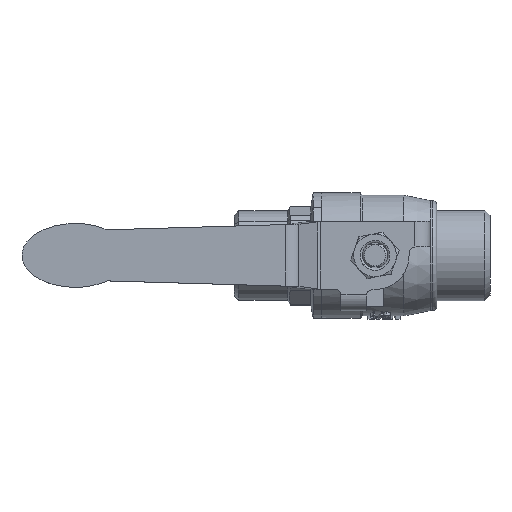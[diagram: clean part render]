
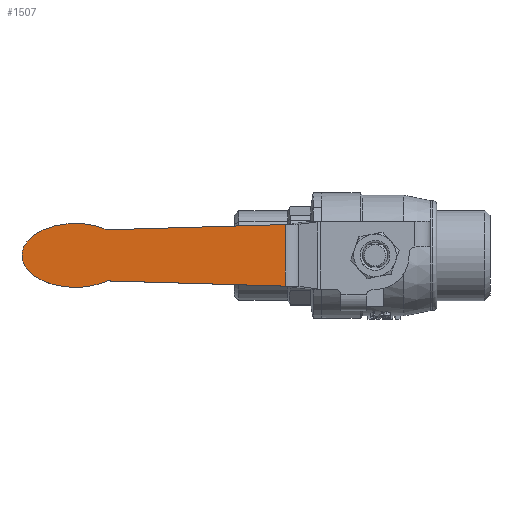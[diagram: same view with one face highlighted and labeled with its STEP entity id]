
A CAD part, top view. The second image highlights one B-rep face of the part: STEP entity #1507.
In plain terms, the highlighted planar face has unit normal (0, 0, 1).
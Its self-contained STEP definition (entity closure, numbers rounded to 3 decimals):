
#154=(
BOUNDED_CURVE()
B_SPLINE_CURVE(3,(#20876,#20877,#20878,#20879),.UNSPECIFIED.,.F.,.F.)
B_SPLINE_CURVE_WITH_KNOTS((4,4),(0.,1.),.UNSPECIFIED.)
CURVE()
GEOMETRIC_REPRESENTATION_ITEM()
RATIONAL_B_SPLINE_CURVE((1.,0.631,0.631,1.))
REPRESENTATION_ITEM('')
);
#156=(
BOUNDED_CURVE()
B_SPLINE_CURVE(3,(#20987,#20988,#20989,#20990),.UNSPECIFIED.,.F.,.F.)
B_SPLINE_CURVE_WITH_KNOTS((4,4),(0.,1.),.UNSPECIFIED.)
CURVE()
GEOMETRIC_REPRESENTATION_ITEM()
RATIONAL_B_SPLINE_CURVE((1.,0.631,0.631,1.))
REPRESENTATION_ITEM('')
);
#321=PLANE('',#5563);
#925=LINE('',#20983,#1201);
#927=LINE('',#21010,#1203);
#928=LINE('',#21012,#1204);
#1201=VECTOR('',#6722,1.);
#1203=VECTOR('',#6726,1.);
#1204=VECTOR('',#6729,1.);
#1507=ADVANCED_FACE('',(#1791),#321,.T.);
#1791=FACE_OUTER_BOUND('',#2131,.T.);
#2131=EDGE_LOOP('',(#3466,#3467,#3468,#3469,#3470));
#3466=ORIENTED_EDGE('',*,*,#4802,.F.);
#3467=ORIENTED_EDGE('',*,*,#4801,.T.);
#3468=ORIENTED_EDGE('',*,*,#4754,.T.);
#3469=ORIENTED_EDGE('',*,*,#4799,.T.);
#3470=ORIENTED_EDGE('',*,*,#4797,.T.);
#4065=VERTEX_POINT('',#20875);
#4066=VERTEX_POINT('',#20880);
#4100=VERTEX_POINT('',#20982);
#4101=VERTEX_POINT('',#20984);
#4102=VERTEX_POINT('',#21009);
#4754=EDGE_CURVE('',#4066,#4065,#154,.T.);
#4797=EDGE_CURVE('',#4101,#4100,#925,.T.);
#4799=EDGE_CURVE('',#4065,#4101,#156,.T.);
#4801=EDGE_CURVE('',#4102,#4066,#927,.T.);
#4802=EDGE_CURVE('',#4102,#4100,#928,.T.);
#5563=AXIS2_PLACEMENT_3D('',#21013,#6730,#6731);
#6722=DIRECTION('',(1.,-0.029,0.));
#6726=DIRECTION('',(-1.,-0.029,0.));
#6729=DIRECTION('',(0.,-1.,0.));
#6730=DIRECTION('',(0.,0.,1.));
#6731=DIRECTION('',(-1.,0.,0.));
#20875=CARTESIAN_POINT('',(-70.739,-0.014,37.331));
#20876=CARTESIAN_POINT('',(-50.739,5.986,37.331));
#20877=CARTESIAN_POINT('',(-60.182,10.236,37.331));
#20878=CARTESIAN_POINT('',(-70.739,7.068,37.331));
#20879=CARTESIAN_POINT('',(-70.739,-0.014,37.331));
#20880=CARTESIAN_POINT('',(-50.739,5.986,37.331));
#20982=CARTESIAN_POINT('',(-8.951,-7.243,37.331));
#20983=CARTESIAN_POINT('',(-50.739,-6.014,37.331));
#20984=CARTESIAN_POINT('',(-50.739,-6.014,37.331));
#20987=CARTESIAN_POINT('',(-70.739,-0.014,37.331));
#20988=CARTESIAN_POINT('',(-70.739,-7.096,37.331));
#20989=CARTESIAN_POINT('',(-60.182,-10.263,37.331));
#20990=CARTESIAN_POINT('',(-50.739,-6.014,37.331));
#21009=CARTESIAN_POINT('',(-8.951,7.215,37.331));
#21010=CARTESIAN_POINT('',(-50.739,5.986,37.331));
#21012=CARTESIAN_POINT('',(-8.951,-0.014,37.331));
#21013=CARTESIAN_POINT('',(-58.239,-0.014,37.331));
